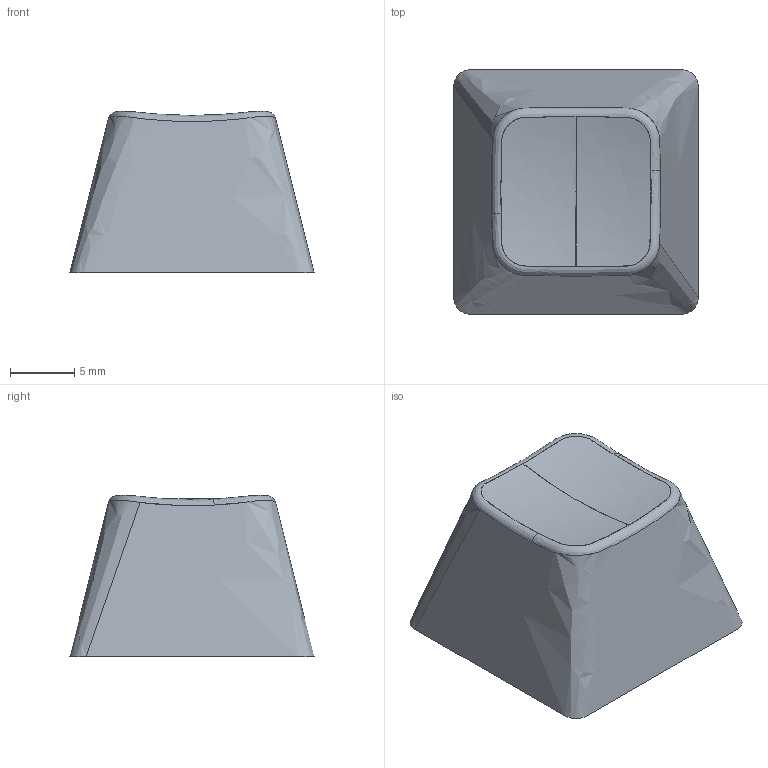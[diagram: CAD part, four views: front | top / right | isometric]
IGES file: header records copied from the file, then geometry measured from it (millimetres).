
Start section: SolidWorks IGES file using analytic representation for surfaces
Global section: file name: Z:\GitHub\MicroPython-Keyboard\models\Keycaps\keycap_dsa_signatureplastics_r3.IGS; native system: SolidWorks 2015; preprocessor: SolidWorks 2015; author: Workstation; date: 151207.205133; units: inch
Bounding box: 19.05 x 19.05 x 12.58 mm (x, y, z)
Surface area: 2151.2 mm2 (no closed solid volume)
Topology: 0 solids, 0 shells, 34 faces, 514 edges, 508 vertices
Faces by surface type: bspline 22, revolution 12
